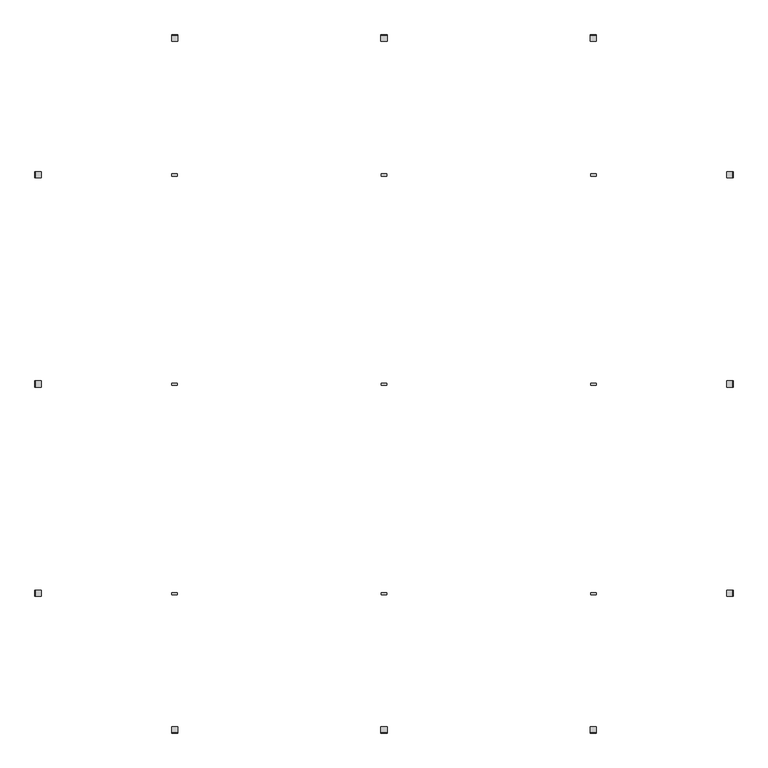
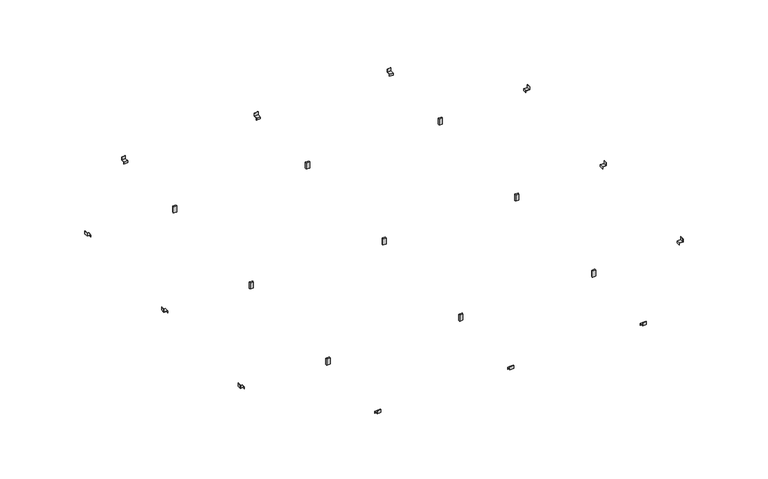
"""IFC4 building model written with IfcOpenShell, lengths in millimetres: proxy geometry, durlum_S1.12KD : durlum_S1.12KD."""

from ifc_helpers import new_model, si_unit, frame, origin, place, context, project, spatial, polyline, outline, extrude, source, transform, mapped, element, save


def generic_models_9f1153b6(model_context):
    return source(origin(), model_context, "Body", "SweptSolid", [
        extrude(outline(polyline([(-2000.0, 2053.5), (-2000.0, 2082.5), (-1999.0, 2082.5), (-1999.0, 2054.5), (-1965.0, 2054.5), (-1965.0, 2035.5), (-1966.0, 2035.5), (-1966.0, 2053.5), (-2000.0, 2053.5)])), frame((-17.3199473, 0.0, 0.0), z_axis=(1.0, 0.0, 0.0), x_axis=(0.0, 1.0, 0.0)), (0.0, 0.0, 1.0), 34.6398947),
        extrude(outline(polyline([(2000.0, 2053.5), (1966.0, 2053.5), (1966.0, 2035.5), (1965.0, 2035.5), (1965.0, 2054.5), (1999.0, 2054.5), (1999.0, 2082.5), (2000.0, 2082.5), (2000.0, 2053.5)])), frame((-17.3199473, 0.0, 0.0), z_axis=(1.0, 0.0, 0.0), x_axis=(0.0, 1.0, 0.0)), (0.0, 0.0, 1.0), 34.6398947),
        extrude(outline(polyline([(2000.0, 2053.5), (1966.0, 2053.5), (1966.0, 2035.5), (1965.0, 2035.5), (1965.0, 2054.5), (1999.0, 2054.5), (1999.0, 2082.5), (2000.0, 2082.5), (2000.0, 2053.5)])), frame((1182.6800527, 0.0, 0.0), z_axis=(1.0, 0.0, 0.0), x_axis=(0.0, 1.0, 0.0)), (0.0, 0.0, 1.0), 34.6398947),
        extrude(outline(polyline([(-2000.0, 2053.5), (-2000.0, 2082.5), (-1999.0, 2082.5), (-1999.0, 2054.5), (-1965.0, 2054.5), (-1965.0, 2035.5), (-1966.0, 2035.5), (-1966.0, 2053.5), (-2000.0, 2053.5)])), frame((1182.6800527, 0.0, 0.0), z_axis=(1.0, 0.0, 0.0), x_axis=(0.0, 1.0, 0.0)), (0.0, 0.0, 1.0), 34.6398947),
        extrude(outline(polyline([(2000.0, 2053.5), (1966.0, 2053.5), (1966.0, 2035.5), (1965.0, 2035.5), (1965.0, 2054.5), (1999.0, 2054.5), (1999.0, 2082.5), (2000.0, 2082.5), (2000.0, 2053.5)])), frame((-1217.3199473, 0.0, 0.0), z_axis=(1.0, 0.0, 0.0), x_axis=(0.0, 1.0, 0.0)), (0.0, 0.0, 1.0), 34.6398947),
        extrude(outline(polyline([(-2000.0, 2053.5), (-2000.0, 2082.5), (-1999.0, 2082.5), (-1999.0, 2054.5), (-1965.0, 2054.5), (-1965.0, 2035.5), (-1966.0, 2035.5), (-1966.0, 2053.5), (-2000.0, 2053.5)])), frame((-1217.3199473, 0.0, 0.0), z_axis=(1.0, 0.0, 0.0), x_axis=(0.0, 1.0, 0.0)), (0.0, 0.0, 1.0), 34.6398947),
        extrude(outline(polyline([(15.0, 3.6253613), (15.0, -8.4811477), (-15.0, -8.4811477), (-15.0, 3.6253613), (15.0, 3.6253613)])), frame((0.0, 0.0, 2036.0885637), z_axis=(0.0, 0.0, 1.0), x_axis=(1.0, 0.0, 0.0)), (0.0, 0.0, 1.0), 59.2290353),
        extrude(outline(polyline([(1215.0, 3.6253613), (1215.0, -8.4811477), (1185.0, -8.4811477), (1185.0, 3.6253613), (1215.0, 3.6253613)])), frame((0.0, 0.0, 2036.3145176), z_axis=(0.0, 0.0, 1.0), x_axis=(1.0, 0.0, 0.0)), (0.0, 0.0, 1.0), 59.2290353),
        extrude(outline(polyline([(-1185.0, 3.6253613), (-1185.0, -8.4811477), (-1215.0, -8.4811477), (-1215.0, 3.6253613), (-1185.0, 3.6253613)])), frame((0.0, 0.0, 2035.8626098), z_axis=(0.0, 0.0, 1.0), x_axis=(1.0, 0.0, 0.0)), (0.0, 0.0, 1.0), 59.2290353),
        extrude(outline(polyline([(2094.5, 2000.0), (2123.5, 2000.0), (2123.5, 1999.0), (2095.5, 1999.0), (2095.5, 1965.0), (2076.5, 1965.0), (2076.5, 1966.0), (2094.5, 1966.0), (2094.5, 2000.0)])), frame((0.0, -17.3199473, 0.0), z_axis=(0.0, 1.0, 0.0), x_axis=(0.0, 0.0, 1.0)), (0.0, 0.0, 1.0), 34.6398947),
        extrude(outline(polyline([(2094.5, -2000.0), (2094.5, -1966.0), (2076.5, -1966.0), (2076.5, -1965.0), (2095.5, -1965.0), (2095.5, -1999.0), (2123.5, -1999.0), (2123.5, -2000.0), (2094.5, -2000.0)])), frame((0.0, -17.3199473, 0.0), z_axis=(0.0, 1.0, 0.0), x_axis=(0.0, 0.0, 1.0)), (0.0, 0.0, 1.0), 34.6398947),
        extrude(outline(polyline([(15.0, -1196.3746387), (15.0, -1208.4811477), (-15.0, -1208.4811477), (-15.0, -1196.3746387), (15.0, -1196.3746387)])), frame((0.0, 0.0, 2036.0885637), z_axis=(0.0, 0.0, 1.0), x_axis=(1.0, 0.0, 0.0)), (0.0, 0.0, 1.0), 59.2290353),
        extrude(outline(polyline([(1215.0, -1196.3746387), (1215.0, -1208.4811477), (1185.0, -1208.4811477), (1185.0, -1196.3746387), (1215.0, -1196.3746387)])), frame((0.0, 0.0, 2036.3145176), z_axis=(0.0, 0.0, 1.0), x_axis=(1.0, 0.0, 0.0)), (0.0, 0.0, 1.0), 59.2290353),
        extrude(outline(polyline([(-1185.0, -1196.3746387), (-1185.0, -1208.4811477), (-1215.0, -1208.4811477), (-1215.0, -1196.3746387), (-1185.0, -1196.3746387)])), frame((0.0, 0.0, 2035.8626098), z_axis=(0.0, 0.0, 1.0), x_axis=(1.0, 0.0, 0.0)), (0.0, 0.0, 1.0), 59.2290353),
        extrude(outline(polyline([(2094.5, 2000.0), (2123.5, 2000.0), (2123.5, 1999.0), (2095.5, 1999.0), (2095.5, 1965.0), (2076.5, 1965.0), (2076.5, 1966.0), (2094.5, 1966.0), (2094.5, 2000.0)])), frame((0.0, -1217.3199473, 0.0), z_axis=(0.0, 1.0, 0.0), x_axis=(0.0, 0.0, 1.0)), (0.0, 0.0, 1.0), 34.6398947),
        extrude(outline(polyline([(2094.5, -2000.0), (2094.5, -1966.0), (2076.5, -1966.0), (2076.5, -1965.0), (2095.5, -1965.0), (2095.5, -1999.0), (2123.5, -1999.0), (2123.5, -2000.0), (2094.5, -2000.0)])), frame((0.0, -1217.3199473, 0.0), z_axis=(0.0, 1.0, 0.0), x_axis=(0.0, 0.0, 1.0)), (0.0, 0.0, 1.0), 34.6398947),
        extrude(outline(polyline([(15.0, 1203.6253613), (15.0, 1191.5188523), (-15.0, 1191.5188523), (-15.0, 1203.6253613), (15.0, 1203.6253613)])), frame((0.0, 0.0, 2036.0885637), z_axis=(0.0, 0.0, 1.0), x_axis=(1.0, 0.0, 0.0)), (0.0, 0.0, 1.0), 59.2290353),
        extrude(outline(polyline([(1215.0, 1203.6253613), (1215.0, 1191.5188523), (1185.0, 1191.5188523), (1185.0, 1203.6253613), (1215.0, 1203.6253613)])), frame((0.0, 0.0, 2036.3145176), z_axis=(0.0, 0.0, 1.0), x_axis=(1.0, 0.0, 0.0)), (0.0, 0.0, 1.0), 59.2290353),
        extrude(outline(polyline([(-1185.0, 1203.6253613), (-1185.0, 1191.5188523), (-1215.0, 1191.5188523), (-1215.0, 1203.6253613), (-1185.0, 1203.6253613)])), frame((0.0, 0.0, 2035.8626098), z_axis=(0.0, 0.0, 1.0), x_axis=(1.0, 0.0, 0.0)), (0.0, 0.0, 1.0), 59.2290353),
        extrude(outline(polyline([(2094.5, 2000.0), (2123.5, 2000.0), (2123.5, 1999.0), (2095.5, 1999.0), (2095.5, 1965.0), (2076.5, 1965.0), (2076.5, 1966.0), (2094.5, 1966.0), (2094.5, 2000.0)])), frame((0.0, 1182.6800527, 0.0), z_axis=(0.0, 1.0, 0.0), x_axis=(0.0, 0.0, 1.0)), (0.0, 0.0, 1.0), 34.6398947),
        extrude(outline(polyline([(2094.5, -2000.0), (2094.5, -1966.0), (2076.5, -1966.0), (2076.5, -1965.0), (2095.5, -1965.0), (2095.5, -1999.0), (2123.5, -1999.0), (2123.5, -2000.0), (2094.5, -2000.0)])), frame((0.0, 1182.6800527, 0.0), z_axis=(0.0, 1.0, 0.0), x_axis=(0.0, 0.0, 1.0)), (0.0, 0.0, 1.0), 34.6398947),
    ])


if __name__ == "__main__":
    model = new_model("IFC4")
    model_context = context("Model", 3, world=origin())
    ifc_project = project(units=[si_unit("LENGTHUNIT", "METRE", prefix="MILLI")], contexts=[model_context])
    site = spatial("IfcSite", under=ifc_project)
    building = spatial("IfcBuilding", under=site)
    placement = place(None, origin())
    generic_models_shape = generic_models_9f1153b6(model_context)
    element("IfcBuildingElementProxy", 1, Name="durlum_S1.12KD : durlum_S1.12KD", ObjectType="durlum_S1.12KD : durlum_S1.12KD", at=placement, inside=building, context=model_context, shape_type="MappedRepresentation", body=[
        mapped(generic_models_shape, transform((0.0, 0.0, 0.0), x_axis=(1.0, 0.0, 0.0), y_axis=(0.0, 1.0, 0.0), z_axis=(0.0, 0.0, 1.0))),
    ])
    save(model, "model.ifc")
